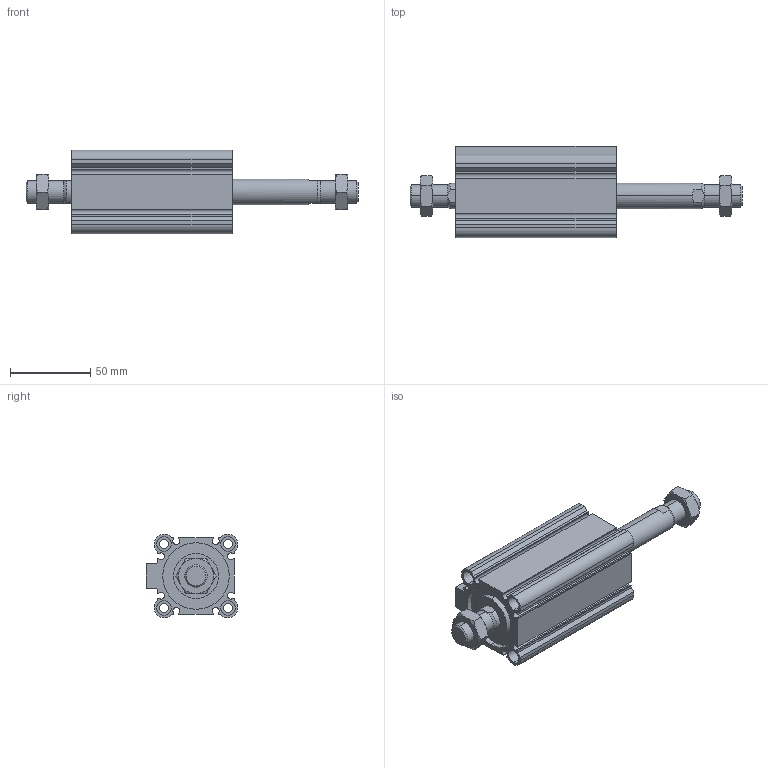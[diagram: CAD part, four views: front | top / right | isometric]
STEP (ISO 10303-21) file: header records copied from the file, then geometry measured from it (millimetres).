
FILE_DESCRIPTION (( 'STEP AP203' ), '1' );
FILE_NAME ('CCMB40-50M-P.STEP', '2020-08-10T11:40:34', ( '' ), ( '' ), 'SwSTEP 2.0', 'SolidWorks 2019', '' );
FILE_SCHEMA (( 'CONFIG_CONTROL_DESIGN' ));
Length unit declared in the file: millimetre
Products named in the file (1): CCMB40-50M-P
Bounding box: 207 x 57 x 52 mm (x, y, z)
Volume: 191519 mm3; surface area: 72660.4 mm2
Topology: 4 solids, 4 shells, 216 faces, 522 edges, 332 vertices
Faces by surface type: plane 94, cylinder 78, cone 44
Entity records: 7009 total; most frequent: CARTESIAN_POINT 1819, DIRECTION 1088, ORIENTED_EDGE 1044, EDGE_CURVE 522, AXIS2_PLACEMENT_3D 413, VERTEX_POINT 332, VECTOR 262, LINE 262
